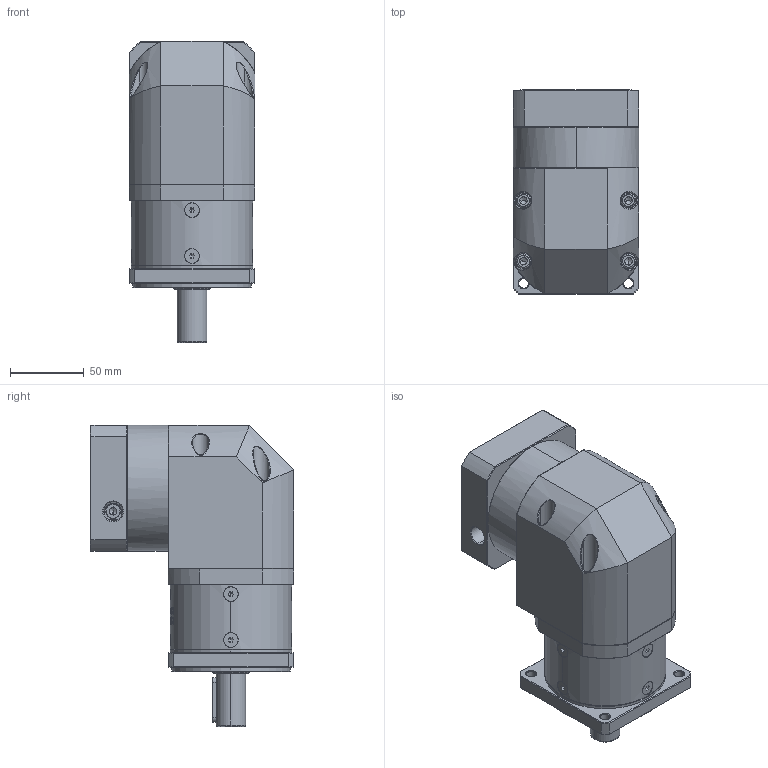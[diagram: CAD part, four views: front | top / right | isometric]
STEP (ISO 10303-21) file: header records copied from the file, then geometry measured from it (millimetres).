
FILE_DESCRIPTION (( 'STEP AP214' ), '1' );
FILE_NAME ('ZFR080-D20-L1-P2-14-60-75-M5.step', '2023-08-25T03:48:14', ( '' ), ( '' ), 'SwSTEP 2.0', 'SolidWorks 2016', '' );
FILE_SCHEMA (( 'AUTOMOTIVE_DESIGN' ));
Length unit declared in the file: millimetre
Products named in the file (1): ZFR080-D20-L1-P2-14-60-75-M5
Bounding box: 85 x 137.6 x 203.5 mm (x, y, z)
Volume: 1261420.6 mm3; surface area: 134165.7 mm2
Topology: 13 solids, 13 shells, 2466 faces, 6353 edges, 3992 vertices
Faces by surface type: plane 1213, cylinder 448, bspline 418, cone 353, torus 34
Entity records: 129825 total; most frequent: CARTESIAN_POINT 48053, ORIENTED_EDGE 12614, DIRECTION 9577, EDGE_CURVE 6307, VERTEX_POINT 3992, VECTOR 3431, LINE 3431, AXIS2_PLACEMENT_3D 3073
